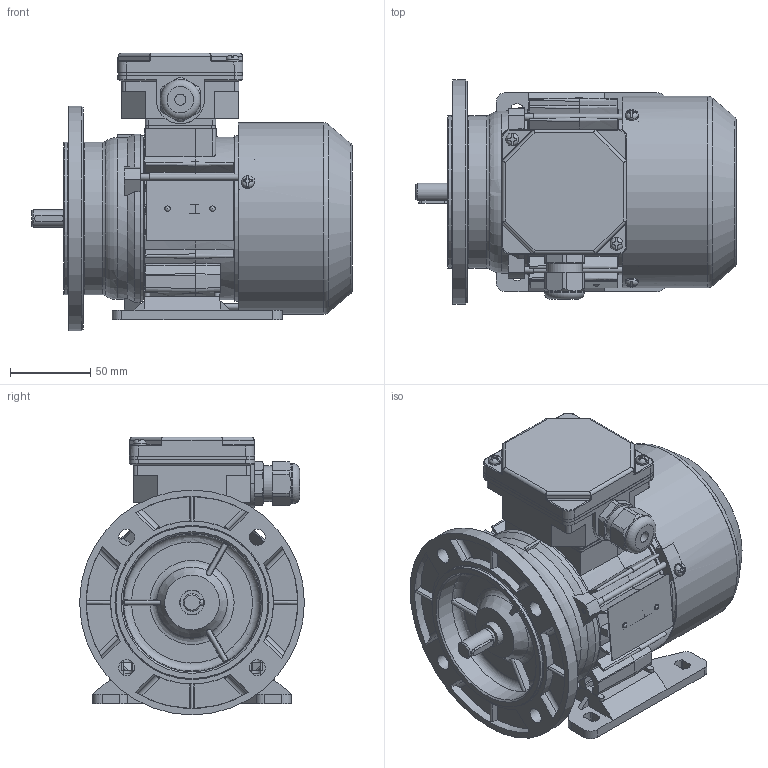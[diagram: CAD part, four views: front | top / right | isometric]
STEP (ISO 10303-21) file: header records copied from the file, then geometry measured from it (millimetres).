
FILE_DESCRIPTION(/* description */ ('Unknown'),/* implementation_level */ '2;1');
FILE_NAME(/* name */ '2SIEL63-2A',/* time_stamp */ '2021-04-12T11:41:46+02:00',/* author */ ('Unknown'),/* organization */ ('Unknown'),/* preprocessor_version */ 'ST-DEVELOPER v16.7',/* originating_system */ 'Solid Edge',/* authorisation */ 'Unknown');
FILE_SCHEMA (('AUTOMOTIVE_DESIGN {1 0 10303 214 3 1 1}'));
Length unit declared in the file: millimetre
Products named in the file (1): 2SIEL63-2A
Bounding box: 199.49 x 140 x 173 mm (x, y, z)
Volume: 579211.5 mm3; surface area: 340917.5 mm2
Topology: 2 solids, 2 shells, 1905 faces, 5421 edges, 3536 vertices
Faces by surface type: plane 1002, cylinder 566, torus 112, cone 112, bspline 92, sphere 21
Full cylindrical faces by diameter (mm): 2.4 x2, 3.3 x3, 3.7 x7, 4 x5, 4.5 x3, 4.8 x2, 5 x2, 5.8 x4, 7 x4, 8 x6, 10 x4, 10.599 x1, 10.999 x1, 12.899 x1, 13.099 x1, 14.998 x2, 15.4 x2, 18.998 x2, 19.498 x1, 19.698 x1, 19.998 x1, 20.098 x1, 21.518 x4, 22.3 x1, 25 x1, 28 x2, 28.48 x4, 31 x2, 32 x1, 35 x3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
Entity records: 77308 total; most frequent: CARTESIAN_POINT 16216, ORIENTED_EDGE 10182, DIRECTION 9538, EDGE_CURVE 5091, AXIS2_PLACEMENT_3D 3463, VERTEX_POINT 3410, LINE 2612, VECTOR 2612
